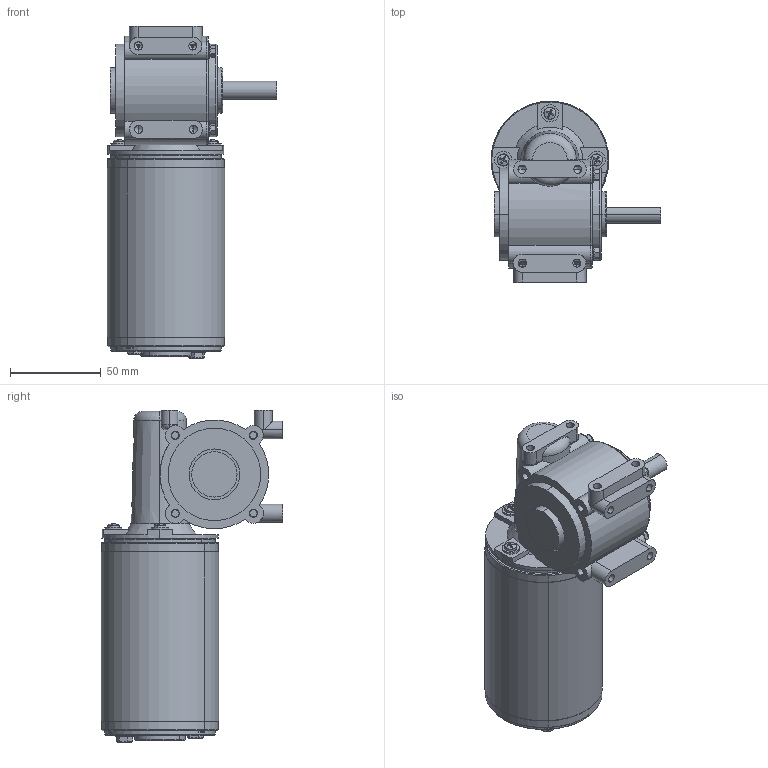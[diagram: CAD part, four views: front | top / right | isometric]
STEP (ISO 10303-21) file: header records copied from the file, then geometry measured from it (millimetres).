
FILE_DESCRIPTION (( 'STEP AP214' ), '1' );
FILE_NAME ('WG5946-L.STEP', '2017-06-13T06:04:30', ( 'Sky123.Org' ), ( 'Sky123.Org' ), 'SwSTEP 2.0', 'SolidWorks 2015', '' );
FILE_SCHEMA (( 'AUTOMOTIVE_DESIGN' ));
Length unit declared in the file: millimetre
Products named in the file (9): M5946-CAT; hex flange machine screw_am_B18.6.7M - M4 x 0.7 x 5 Indented HFMS --5N; WG5946L-GEARBOX; WG5946-L; flat washer type b regular_ai_Regular FW 0.112; binding head screw_ai_CR-BHMS 0.125-40x0.5625x0.5625-N; M5946 MOTOR 2017 CAT; slotted set screw flat point_ai_SSFLATSLT 0.164-32x0.164-N; hex washer screw_ai_IN-HWMS 0.19-24x0.25x0.25-N
Assembly tree (18 placements, depth 3):
  WG5946-L
    WG5946L-GEARBOX
    hex flange machine screw_am_B18.6.7M - M4 x 0.7 x 5 Indented HFMS --5N  x5
    M5946 MOTOR 2017 CAT
      M5946-CAT
      hex washer screw_ai_IN-HWMS 0.19-24x0.25x0.25-N  x2
      slotted set screw flat point_ai_SSFLATSLT 0.164-32x0.164-N  x2
    binding head screw_ai_CR-BHMS 0.125-40x0.5625x0.5625-N  x3
    flat washer type b regular_ai_Regular FW 0.112  x3
Bounding box: 93.75 x 100.3 x 183.11 mm (x, y, z)
Volume: 575197.1 mm3; surface area: 73974.1 mm2
Topology: 19 solids, 19 shells, 523 faces, 1202 edges, 739 vertices
Faces by surface type: plane 188, cylinder 154, cone 102, torus 35, bspline 30, sphere 14
Entity records: 10818 total; most frequent: CARTESIAN_POINT 2651, DIRECTION 1647, ORIENTED_EDGE 1484, EDGE_CURVE 742, AXIS2_PLACEMENT_3D 690, VERTEX_POINT 467, EDGE_LOOP 365, CIRCLE 360
